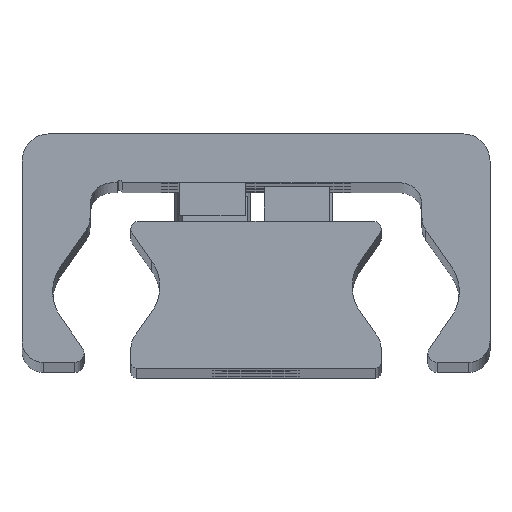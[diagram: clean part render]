
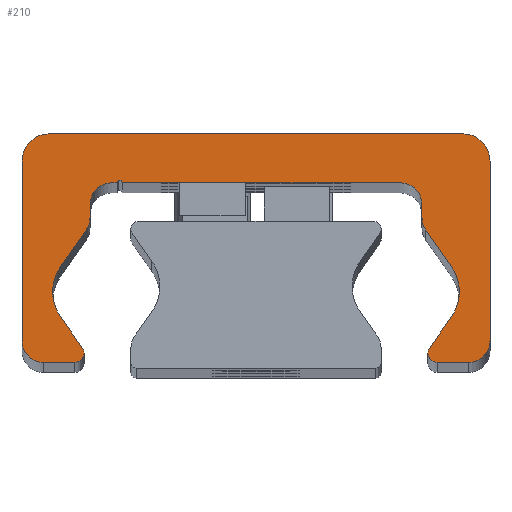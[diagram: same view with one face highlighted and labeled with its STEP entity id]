
A CAD part, top view. The second image highlights one B-rep face of the part: STEP entity #210.
In plain terms, the highlighted planar face has unit normal (0, 0, 1).
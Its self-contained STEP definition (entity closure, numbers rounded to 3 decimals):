
#210=ADVANCED_FACE('',(#536),#537,.T.);
#536=FACE_OUTER_BOUND('',#863,.T.);
#537=PLANE('',#864);
#863=EDGE_LOOP('',(#1986,#1987,#1988,#1989,#1990,#1991,#1992,#1993,#1994,#1995,#1996,#1997,#1998,#1999,#2000,#2001,#2002,#2003,#2004,#2005,#2006,#2007,#2008,#2009,#2010,#2011,#2012,#2013,#2014,#2015));
#864=AXIS2_PLACEMENT_3D('',#2016,#2017,#2018);
#1986=ORIENTED_EDGE('',*,*,#2249,.F.);
#1987=ORIENTED_EDGE('',*,*,#2422,.F.);
#1988=ORIENTED_EDGE('',*,*,#2235,.F.);
#1989=ORIENTED_EDGE('',*,*,#2421,.F.);
#1990=ORIENTED_EDGE('',*,*,#2417,.F.);
#1991=ORIENTED_EDGE('',*,*,#2414,.F.);
#1992=ORIENTED_EDGE('',*,*,#2411,.F.);
#1993=ORIENTED_EDGE('',*,*,#2408,.F.);
#1994=ORIENTED_EDGE('',*,*,#2405,.F.);
#1995=ORIENTED_EDGE('',*,*,#2402,.F.);
#1996=ORIENTED_EDGE('',*,*,#2399,.F.);
#1997=ORIENTED_EDGE('',*,*,#2396,.F.);
#1998=ORIENTED_EDGE('',*,*,#2393,.F.);
#1999=ORIENTED_EDGE('',*,*,#2390,.F.);
#2000=ORIENTED_EDGE('',*,*,#2241,.F.);
#2001=ORIENTED_EDGE('',*,*,#2388,.F.);
#2002=ORIENTED_EDGE('',*,*,#2243,.F.);
#2003=ORIENTED_EDGE('',*,*,#2387,.F.);
#2004=ORIENTED_EDGE('',*,*,#2383,.F.);
#2005=ORIENTED_EDGE('',*,*,#2380,.F.);
#2006=ORIENTED_EDGE('',*,*,#2377,.F.);
#2007=ORIENTED_EDGE('',*,*,#2374,.F.);
#2008=ORIENTED_EDGE('',*,*,#2371,.F.);
#2009=ORIENTED_EDGE('',*,*,#2368,.F.);
#2010=ORIENTED_EDGE('',*,*,#2365,.F.);
#2011=ORIENTED_EDGE('',*,*,#2362,.F.);
#2012=ORIENTED_EDGE('',*,*,#2359,.F.);
#2013=ORIENTED_EDGE('',*,*,#2356,.F.);
#2014=ORIENTED_EDGE('',*,*,#2353,.F.);
#2015=ORIENTED_EDGE('',*,*,#2350,.F.);
#2016=CARTESIAN_POINT('',(-0.023,14.187,252.0));
#2017=DIRECTION('',(0.0,0.0,1.0));
#2018=DIRECTION('',(1.0,0.0,0.0));
#2235=EDGE_CURVE('',#2718,#2721,#2722,.T.);
#2241=EDGE_CURVE('',#2731,#2727,#2733,.T.);
#2243=EDGE_CURVE('',#2734,#2737,#2738,.T.);
#2249=EDGE_CURVE('',#2747,#2743,#2749,.T.);
#2350=EDGE_CURVE('',#2743,#2912,#2913,.T.);
#2353=EDGE_CURVE('',#2912,#2917,#2918,.T.);
#2356=EDGE_CURVE('',#2917,#2922,#2923,.T.);
#2359=EDGE_CURVE('',#2922,#2927,#2928,.T.);
#2362=EDGE_CURVE('',#2927,#2932,#2933,.T.);
#2365=EDGE_CURVE('',#2932,#2937,#2938,.T.);
#2368=EDGE_CURVE('',#2937,#2942,#2943,.T.);
#2371=EDGE_CURVE('',#2942,#2947,#2948,.T.);
#2374=EDGE_CURVE('',#2947,#2952,#2953,.T.);
#2377=EDGE_CURVE('',#2952,#2957,#2958,.T.);
#2380=EDGE_CURVE('',#2957,#2962,#2963,.T.);
#2383=EDGE_CURVE('',#2962,#2967,#2968,.T.);
#2387=EDGE_CURVE('',#2967,#2734,#2973,.T.);
#2388=EDGE_CURVE('',#2737,#2731,#2974,.T.);
#2390=EDGE_CURVE('',#2727,#2976,#2977,.T.);
#2393=EDGE_CURVE('',#2976,#2981,#2982,.T.);
#2396=EDGE_CURVE('',#2981,#2986,#2987,.T.);
#2399=EDGE_CURVE('',#2986,#2991,#2992,.T.);
#2402=EDGE_CURVE('',#2991,#2996,#2997,.T.);
#2405=EDGE_CURVE('',#2996,#3001,#3002,.T.);
#2408=EDGE_CURVE('',#3001,#3006,#3007,.T.);
#2411=EDGE_CURVE('',#3006,#3011,#3012,.T.);
#2414=EDGE_CURVE('',#3011,#3016,#3017,.T.);
#2417=EDGE_CURVE('',#3016,#3021,#3022,.T.);
#2421=EDGE_CURVE('',#3021,#2718,#3027,.T.);
#2422=EDGE_CURVE('',#2721,#2747,#3028,.T.);
#2718=VERTEX_POINT('',#3426);
#2721=VERTEX_POINT('',#3430);
#2722=CIRCLE('',#3431,0.85);
#2727=VERTEX_POINT('',#3437);
#2731=VERTEX_POINT('',#3442);
#2733=CIRCLE('',#3445,0.85);
#2734=VERTEX_POINT('',#3446);
#2737=VERTEX_POINT('',#3450);
#2738=CIRCLE('',#3451,4.);
#2743=VERTEX_POINT('',#3457);
#2747=VERTEX_POINT('',#3462);
#2749=CIRCLE('',#3465,4.);
#2912=VERTEX_POINT('',#3682);
#2913=CIRCLE('',#3683,4.);
#2917=VERTEX_POINT('',#3688);
#2918=LINE('',#3689,#3690);
#2922=VERTEX_POINT('',#3696);
#2923=CIRCLE('',#3697,2.);
#2927=VERTEX_POINT('',#3702);
#2928=LINE('',#3703,#3704);
#2932=VERTEX_POINT('',#3710);
#2933=CIRCLE('',#3711,2.0);
#2937=VERTEX_POINT('',#3716);
#2938=LINE('',#3717,#3718);
#2942=VERTEX_POINT('',#3724);
#2943=CIRCLE('',#3725,0.25);
#2947=VERTEX_POINT('',#3730);
#2948=LINE('',#3731,#3732);
#2952=VERTEX_POINT('',#3738);
#2953=CIRCLE('',#3739,2.0);
#2957=VERTEX_POINT('',#3744);
#2958=LINE('',#3745,#3746);
#2962=VERTEX_POINT('',#3752);
#2963=CIRCLE('',#3753,2.0);
#2967=VERTEX_POINT('',#3758);
#2968=LINE('',#3759,#3760);
#2973=CIRCLE('',#3767,4.);
#2974=LINE('',#3768,#3769);
#2976=VERTEX_POINT('',#3772);
#2977=CIRCLE('',#3773,0.85);
#2981=VERTEX_POINT('',#3778);
#2982=LINE('',#3779,#3780);
#2986=VERTEX_POINT('',#3786);
#2987=CIRCLE('',#3787,2.);
#2991=VERTEX_POINT('',#3792);
#2992=LINE('',#3793,#3794);
#2996=VERTEX_POINT('',#3800);
#2997=CIRCLE('',#3801,2.5);
#3001=VERTEX_POINT('',#3806);
#3002=LINE('',#3807,#3808);
#3006=VERTEX_POINT('',#3814);
#3007=CIRCLE('',#3815,2.5);
#3011=VERTEX_POINT('',#3820);
#3012=LINE('',#3821,#3822);
#3016=VERTEX_POINT('',#3828);
#3017=CIRCLE('',#3829,2.);
#3021=VERTEX_POINT('',#3834);
#3022=LINE('',#3835,#3836);
#3027=CIRCLE('',#3843,0.85);
#3028=LINE('',#3844,#3845);
#3426=CARTESIAN_POINT('',(15.8,1.859,252.0));
#3430=CARTESIAN_POINT('',(15.922,2.298,252.0));
#3431=AXIS2_PLACEMENT_3D('',#4191,#4192,#4193);
#3437=CARTESIAN_POINT('',(-15.8,1.859,252.0));
#3442=CARTESIAN_POINT('',(-15.922,2.298,252.0));
#3445=AXIS2_PLACEMENT_3D('',#4203,#4204,#4205);
#3446=CARTESIAN_POINT('',(-18.688,7.509,252.0));
#3450=CARTESIAN_POINT('',(-17.964,5.214,252.0));
#3451=AXIS2_PLACEMENT_3D('',#4207,#4208,#4209);
#3457=CARTESIAN_POINT('',(18.688,7.509,252.0));
#3462=CARTESIAN_POINT('',(17.964,5.214,252.0));
#3465=AXIS2_PLACEMENT_3D('',#4219,#4220,#4221);
#3682=CARTESIAN_POINT('',(17.964,9.803,252.0));
#3683=AXIS2_PLACEMENT_3D('',#4414,#4415,#4416);
#3688=CARTESIAN_POINT('',(15.612,13.163,252.0));
#3689=CARTESIAN_POINT('',(15.612,13.163,252.0));
#3690=VECTOR('',#4421,1.0);
#3696=CARTESIAN_POINT('',(15.25,14.31,252.0));
#3697=AXIS2_PLACEMENT_3D('',#4424,#4425,#4426);
#3702=CARTESIAN_POINT('',(15.25,15.509,252.0));
#3703=CARTESIAN_POINT('',(15.25,15.509,252.0));
#3704=VECTOR('',#4431,1.0);
#3710=CARTESIAN_POINT('',(13.25,17.509,252.0));
#3711=AXIS2_PLACEMENT_3D('',#4434,#4435,#4436);
#3716=CARTESIAN_POINT('',(-12.25,17.509,252.0));
#3717=CARTESIAN_POINT('',(-12.25,17.509,252.0));
#3718=VECTOR('',#4441,1.0);
#3724=CARTESIAN_POINT('',(-12.75,17.509,252.0));
#3725=AXIS2_PLACEMENT_3D('',#4444,#4445,#4446);
#3730=CARTESIAN_POINT('',(-13.25,17.509,252.0));
#3731=CARTESIAN_POINT('',(-13.25,17.509,252.0));
#3732=VECTOR('',#4451,1.0);
#3738=CARTESIAN_POINT('',(-15.25,15.509,252.0));
#3739=AXIS2_PLACEMENT_3D('',#4454,#4455,#4456);
#3744=CARTESIAN_POINT('',(-15.25,14.31,252.0));
#3745=CARTESIAN_POINT('',(-15.25,14.31,252.0));
#3746=VECTOR('',#4461,1.0);
#3752=CARTESIAN_POINT('',(-15.612,13.163,252.0));
#3753=AXIS2_PLACEMENT_3D('',#4464,#4465,#4466);
#3758=CARTESIAN_POINT('',(-17.964,9.803,252.0));
#3759=CARTESIAN_POINT('',(-17.964,9.803,252.0));
#3760=VECTOR('',#4471,1.);
#3767=AXIS2_PLACEMENT_3D('',#4477,#4478,#4479);
#3768=CARTESIAN_POINT('',(-15.922,2.298,252.0));
#3769=VECTOR('',#4480,1.0);
#3772=CARTESIAN_POINT('',(-16.65,1.009,252.0));
#3773=AXIS2_PLACEMENT_3D('',#4482,#4483,#4484);
#3778=CARTESIAN_POINT('',(-19.5,1.009,252.0));
#3779=CARTESIAN_POINT('',(-19.5,1.009,252.0));
#3780=VECTOR('',#4489,1.0);
#3786=CARTESIAN_POINT('',(-21.5,3.009,252.0));
#3787=AXIS2_PLACEMENT_3D('',#4492,#4493,#4494);
#3792=CARTESIAN_POINT('',(-21.5,19.509,252.0));
#3793=CARTESIAN_POINT('',(-21.5,19.509,252.0));
#3794=VECTOR('',#4499,1.0);
#3800=CARTESIAN_POINT('',(-19.0,22.009,252.0));
#3801=AXIS2_PLACEMENT_3D('',#4502,#4503,#4504);
#3806=CARTESIAN_POINT('',(19.0,22.009,252.0));
#3807=CARTESIAN_POINT('',(19.0,22.009,252.0));
#3808=VECTOR('',#4509,1.0);
#3814=CARTESIAN_POINT('',(21.5,19.509,252.0));
#3815=AXIS2_PLACEMENT_3D('',#4512,#4513,#4514);
#3820=CARTESIAN_POINT('',(21.5,3.009,252.0));
#3821=CARTESIAN_POINT('',(21.5,3.009,252.0));
#3822=VECTOR('',#4519,1.0);
#3828=CARTESIAN_POINT('',(19.5,1.009,252.0));
#3829=AXIS2_PLACEMENT_3D('',#4522,#4523,#4524);
#3834=CARTESIAN_POINT('',(16.65,1.009,252.0));
#3835=CARTESIAN_POINT('',(16.65,1.009,252.0));
#3836=VECTOR('',#4529,1.0);
#3843=AXIS2_PLACEMENT_3D('',#4535,#4536,#4537);
#3844=CARTESIAN_POINT('',(17.964,5.214,252.0));
#3845=VECTOR('',#4538,1.0);
#4191=CARTESIAN_POINT('',(16.65,1.859,252.0));
#4192=DIRECTION('',(0.0,0.0,-1.0));
#4193=DIRECTION('',(1.0,0.0,0.0));
#4203=CARTESIAN_POINT('',(-16.65,1.859,252.0));
#4204=DIRECTION('',(0.0,0.0,-1.0));
#4205=DIRECTION('',(1.0,0.0,0.0));
#4207=CARTESIAN_POINT('',(-14.688,7.509,252.0));
#4208=DIRECTION('',(0.0,0.0,1.0));
#4209=DIRECTION('',(1.0,0.0,0.0));
#4219=CARTESIAN_POINT('',(14.688,7.509,252.0));
#4220=DIRECTION('',(0.0,0.0,1.0));
#4221=DIRECTION('',(1.0,0.0,0.0));
#4414=CARTESIAN_POINT('',(14.688,7.509,252.0));
#4415=DIRECTION('',(0.0,0.0,1.0));
#4416=DIRECTION('',(1.0,0.0,0.0));
#4421=DIRECTION('',(-0.574,0.819,0.0));
#4424=CARTESIAN_POINT('',(17.25,14.31,252.0));
#4425=DIRECTION('',(0.0,0.0,-1.0));
#4426=DIRECTION('',(1.0,0.0,0.0));
#4431=DIRECTION('',(0.0,1.0,0.0));
#4434=CARTESIAN_POINT('',(13.25,15.509,252.0));
#4435=DIRECTION('',(0.0,0.0,1.0));
#4436=DIRECTION('',(1.0,0.0,0.0));
#4441=DIRECTION('',(-1.0,-0.0,-0.0));
#4444=CARTESIAN_POINT('',(-12.5,17.509,252.0));
#4445=DIRECTION('',(0.0,0.0,1.0));
#4446=DIRECTION('',(1.0,0.0,0.0));
#4451=DIRECTION('',(-1.0,-0.0,-0.0));
#4454=CARTESIAN_POINT('',(-13.25,15.509,252.0));
#4455=DIRECTION('',(0.0,0.0,1.0));
#4456=DIRECTION('',(1.0,0.0,0.0));
#4461=DIRECTION('',(-0.0,-1.0,-0.0));
#4464=CARTESIAN_POINT('',(-17.25,14.31,252.0));
#4465=DIRECTION('',(0.0,0.0,-1.0));
#4466=DIRECTION('',(1.0,0.0,0.0));
#4471=DIRECTION('',(-0.574,-0.819,-0.0));
#4477=CARTESIAN_POINT('',(-14.688,7.509,252.0));
#4478=DIRECTION('',(0.0,0.0,1.0));
#4479=DIRECTION('',(1.0,0.0,0.0));
#4480=DIRECTION('',(0.574,-0.819,0.0));
#4482=CARTESIAN_POINT('',(-16.65,1.859,252.0));
#4483=DIRECTION('',(0.0,0.0,-1.0));
#4484=DIRECTION('',(1.0,0.0,0.0));
#4489=DIRECTION('',(-1.0,-0.0,-0.0));
#4492=CARTESIAN_POINT('',(-19.5,3.009,252.0));
#4493=DIRECTION('',(0.0,0.0,-1.0));
#4494=DIRECTION('',(1.0,0.0,0.0));
#4499=DIRECTION('',(0.0,1.0,0.0));
#4502=CARTESIAN_POINT('',(-19.0,19.509,252.0));
#4503=DIRECTION('',(0.0,0.0,-1.0));
#4504=DIRECTION('',(1.0,0.0,0.0));
#4509=DIRECTION('',(1.0,0.0,0.0));
#4512=CARTESIAN_POINT('',(19.0,19.509,252.0));
#4513=DIRECTION('',(0.0,0.0,-1.0));
#4514=DIRECTION('',(1.0,0.0,0.0));
#4519=DIRECTION('',(-0.0,-1.0,-0.0));
#4522=CARTESIAN_POINT('',(19.5,3.009,252.0));
#4523=DIRECTION('',(0.0,0.0,-1.0));
#4524=DIRECTION('',(1.0,0.0,0.0));
#4529=DIRECTION('',(-1.0,-0.0,-0.0));
#4535=CARTESIAN_POINT('',(16.65,1.859,252.0));
#4536=DIRECTION('',(0.0,0.0,-1.0));
#4537=DIRECTION('',(1.0,0.0,0.0));
#4538=DIRECTION('',(0.574,0.819,0.0));
